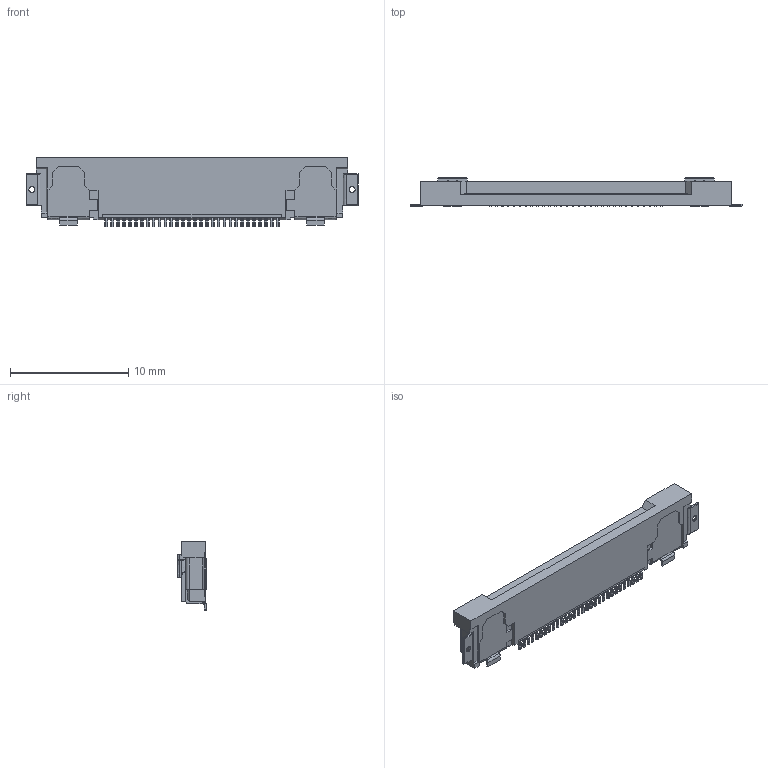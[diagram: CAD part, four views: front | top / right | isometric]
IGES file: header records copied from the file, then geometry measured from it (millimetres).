
Start section: SolidWorks IGES file using analytic representation for surfaces
Global section: file name: C:\Documents and Settings\kaihatsu-3dcad-3\デスクトップ\新しいフォルダ (4)\20526-030E-01C ASSY IGES R4 ALL.IGS; native system: SolidWorks 2011; preprocessor: SolidWorks 2011; author: kaihatsu-3dcad-3; date: 120216.175722; units: millimetre
Bounding box: 28.1 x 2.4 x 5.9 mm (x, y, z)
Surface area: 465.8 mm2 (no closed solid volume)
Topology: 0 solids, 0 shells, 630 faces, 4099 edges, 4099 vertices
Faces by surface type: bspline 461, revolution 169
